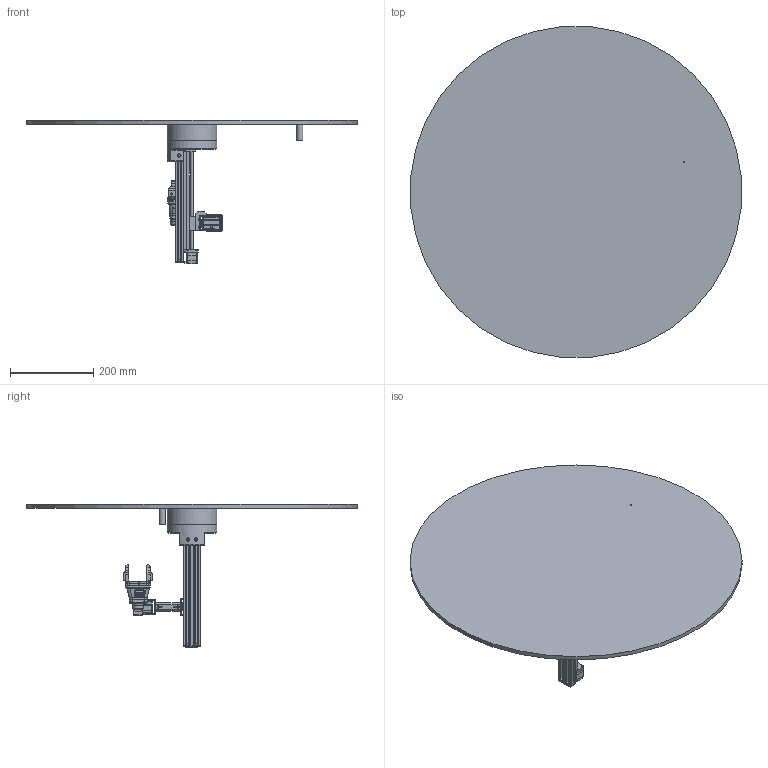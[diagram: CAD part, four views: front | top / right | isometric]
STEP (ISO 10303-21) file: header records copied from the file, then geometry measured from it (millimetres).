
FILE_DESCRIPTION(/* description */ (''),/* implementation_level */ '2;1');
FILE_NAME(/* name */ 'Assieme_scara_lineare_02.stp',/* time_stamp */ '2025-11-16T07:32:37+01:00',/* author */ ('R5800u'),/* organization */ (''),/* preprocessor_version */ 'ST-DEVELOPER v20',/* originating_system */ 'Autodesk Inventor 2025',/* authorisation */ '');
FILE_SCHEMA (('AUTOMOTIVE_DESIGN { 1 0 10303 214 3 1 1 }'));
Products named in the file (70): Assieme_scara_02; tslot 2040; Assieme_profilato; profilato; profilato_cuscinetto; profilato_motore; Nema11; 00144585; 00144585_01; 00144585_02; 00144585_03; 00144585_04; 00144585_05; 00144585_06; 00144585_07; 00144585_08; 00144585_09; 00144585_10; 00144585_11; 00144585_12; 00144585_13; 00144585_14; Actuator_MGN9; AS 1420 - 1973 - M3 x 6; Actuator_MGN9C; Carriage; base1; blocco_motore1; sts3215_flangia_t1; Сборка14_3; SCS215_7_3; sts3215_flangia_t1_1; Сборка14_3_1; SCS215_7_3_1; ZK_122; SG-ZIJI_15; XG-ZIJI_16; MOTOR-1723_3; PCB-CHAZUO_92; GE_27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
Assembly tree (111 placements, depth 5):
  Assieme_scara_02
    tslot 2040
    Assieme_profilato
      profilato
      profilato_cuscinetto
      profilato_motore
      Nema11
      00144585
        00144585_01
        00144585_02
        00144585_03
        00144585_04
        00144585_05
        00144585_06
        00144585_07
        00144585_08
        00144585_09
        00144585_10
        00144585_11
        00144585_12
        00144585_13
        00144585_14
      Actuator_MGN9
      AS 1420 - 1973 - M3 x 6  x4
      Actuator_MGN9C
      Carriage
      AS 1420 - 1973 - M3 x 12  x4
    base1
    blocco_motore1
    sts3215_flangia_t1
      Сборка14_3
        SCS215_7_3
          ZK_122
          SG-ZIJI_15
          XG-ZIJI_16
          MOTOR-1723_3
          PCB-CHAZUO_92
          GE_27
          金属舵盘（驱动）
          金属舵盘（从动）
      flangia3
      flangia1
    sts3215_flangia_t1_1
      Сборка14_3_1
        SCS215_7_3_1
          ZK_122
          SG-ZIJI_15
          XG-ZIJI_16
          MOTOR-1723_3
          PCB-CHAZUO_92
          GE_27
          金属舵盘（驱动）
          金属舵盘（从动）
      flangia3
      flangia1
    braccio02
    tappo_2040
    base2
    peso_9030
    AS 1420 - 1973 - M3 x 12  x8
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Bounding box: 796.96 x 796.96 x 346.2 mm (x, y, z)
Volume: 6067819.8 mm3; surface area: 1426814.3 mm2
Topology: 101 solids, 125 shells, 5084 faces, 13938 edges, 9339 vertices
Faces by surface type: plane 2666, cylinder 1641, bspline 310, cone 273, torus 142, sphere 52
Full cylindrical faces by diameter (mm): 1 x2, 1.03 x6, 1.167 x3, 1.2 x4, 1.5 x4, 1.6 x26, 1.755 x1, 2 x13, 2.05 x4, 2.2 x17, 2.3 x4, 2.4 x8, 2.459 x13, 2.47 x1, 2.5 x81, 2.6 x2, 2.8 x4, 2.9 x8, 3 x67, 3.2 x58, 3.242 x4, 3.4 x17, 3.5 x11, 4 x11, 4.3 x8, 4.5 x5, 4.69 x1, 4.7 x2, 4.8 x1, 5 x9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
Entity records: 160571 total; most frequent: CARTESIAN_POINT 73854, ORIENTED_EDGE 17744, DIRECTION 16811, EDGE_CURVE 8872, VERTEX_POINT 5970, AXIS2_PLACEMENT_3D 5740, LINE 5331, VECTOR 5331
